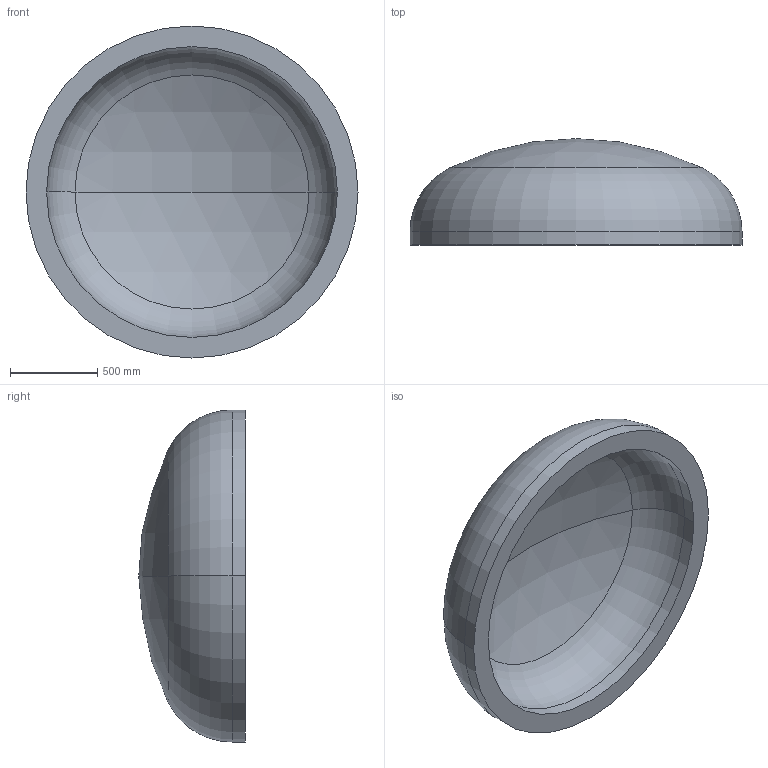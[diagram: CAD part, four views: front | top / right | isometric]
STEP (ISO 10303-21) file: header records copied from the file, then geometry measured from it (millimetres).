
FILE_DESCRIPTION (( 'STEP AP203' ), '1' );
FILE_NAME ('DIN 28013 Korbbogenform_-_Boden DIN 28013 - 1900 x 75 - I - s=118.step', '2016-07-01T13:30:39', ( '' ), ( '' ), 'SwSTEP 2.0', 'SolidWorks 2013', '' );
FILE_SCHEMA (( 'CONFIG_CONTROL_DESIGN' ));
Length unit declared in the file: millimetre
Products named in the file (1): DIN 28013 Korbbogenform_-_Boden DIN 28013 - 1900 x 75 - I - s=118
Bounding box: 1900 x 608.86 x 1900 mm (x, y, z)
Volume: 476912993.5 mm3; surface area: 8773032.9 mm2
Topology: 1 solids, 1 shells, 13 faces, 24 edges, 14 vertices
Faces by surface type: torus 4, cylinder 4, sphere 4, plane 1
Entity records: 407 total; most frequent: DIRECTION 72, CARTESIAN_POINT 52, ORIENTED_EDGE 48, AXIS2_PLACEMENT_3D 34, EDGE_CURVE 24, CIRCLE 20, VERTEX_POINT 14, EDGE_LOOP 14
